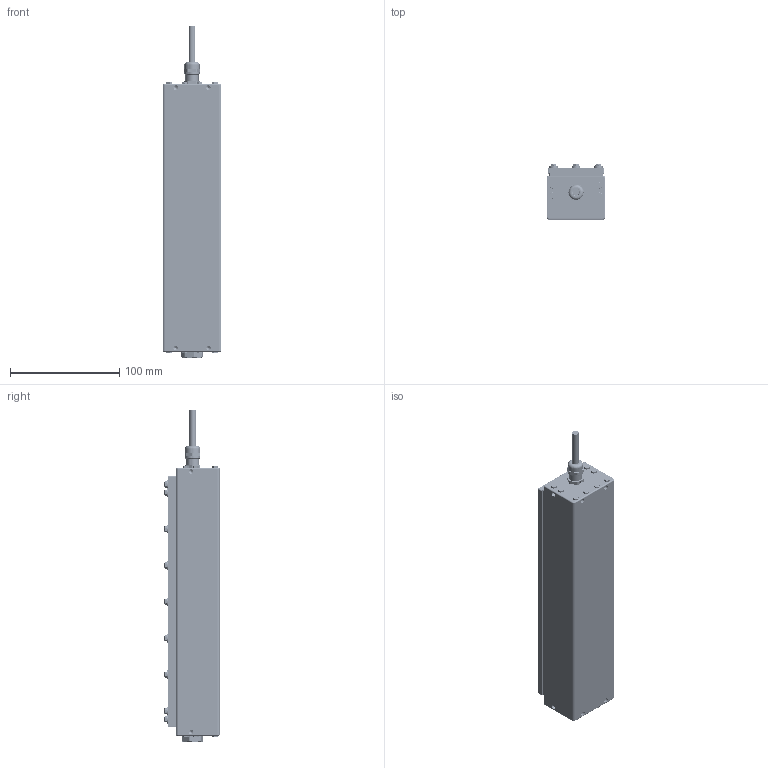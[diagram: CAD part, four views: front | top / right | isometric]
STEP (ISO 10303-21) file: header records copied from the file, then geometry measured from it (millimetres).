
FILE_DESCRIPTION (( 'STEP AP214' ), '1' );
FILE_NAME ('EFFI-FLEX-IP69K-10.STEP', '2021-06-02T07:58:16', ( '' ), ( '' ), 'SwSTEP 2.0', 'SolidWorks 2021', '' );
FILE_SCHEMA (( 'AUTOMOTIVE_DESIGN' ));
Length unit declared in the file: millimetre
Products named in the file (7): EFFI-FLEX-IP69K-10; effiflex IP69k sans vis; 009166_AVEC CABLE; 001477; 004326_M5X16; 004327; 015793
Assembly tree (51 placements, depth 2):
  EFFI-FLEX-IP69K-10
    effiflex IP69k sans vis
    004326_M5X16  x16
    004327  x16
    001477  x16
    009166_AVEC CABLE
    015793
Bounding box: 54 x 50.7 x 304.1 mm (x, y, z)
Volume: 633081.3 mm3; surface area: 140592.4 mm2
Topology: 58 solids, 58 shells, 3010 faces, 7831 edges, 4983 vertices
Faces by surface type: cylinder 1837, plane 570, cone 407, bspline 144, torus 52
Entity records: 31667 total; most frequent: CARTESIAN_POINT 12057, DIRECTION 3591, ORIENTED_EDGE 3334, EDGE_CURVE 1667, AXIS2_PLACEMENT_3D 1409, VERTEX_POINT 1068, EDGE_LOOP 845, LINE 773
